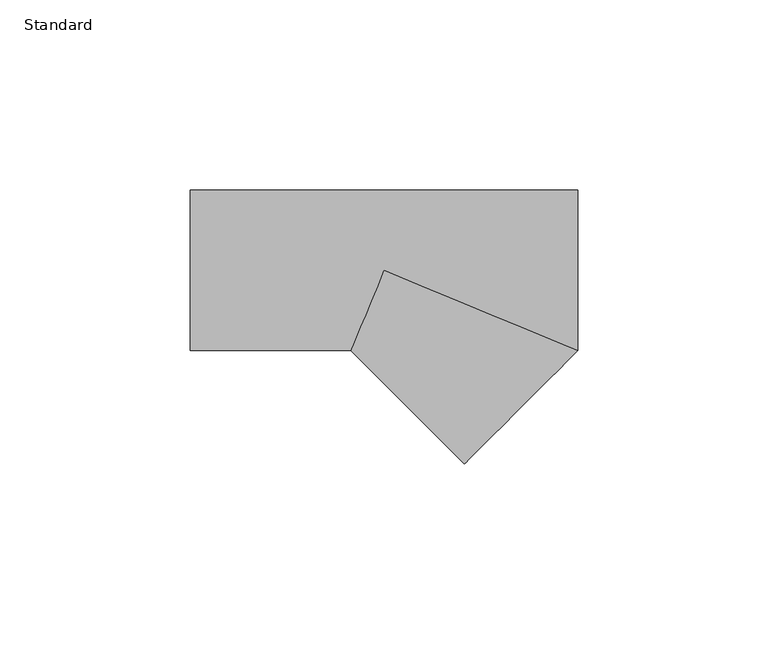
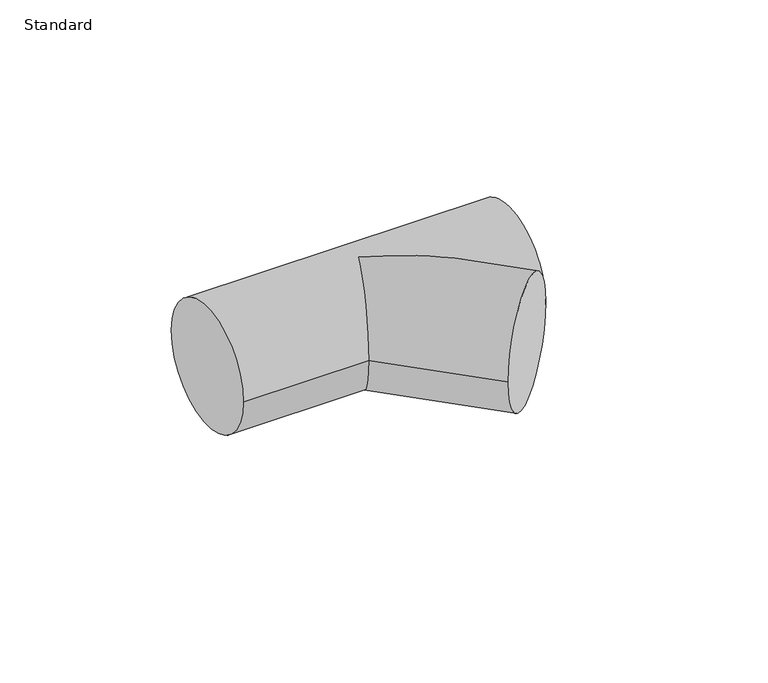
"""IFC4 building model written with IfcOpenShell, lengths in millimetres: pipe fitting geometry, Té - Générique : Standard."""

from ifc_helpers import new_model, si_unit, frame, origin, place, context, project, spatial, circle_curve, ellipse_curve, source, transform, mapped, element, save
from ifc_brep_helpers import plane_surface, cylinder_surface, advanced_brep


def standard_378eef83(model_context):
    return source(origin(), model_context, "Body", "AdvancedBrep", [
        advanced_brep(
        [(-50.943507, -21.1, 0.0), (-50.943507, 21.1, 0.0), (50.943507, -21.1, 0.0), (50.943507, 21.1, 0.0), (-8.7392884, -21.1, 0.0), (0.0, 0.0, 21.1), (0.0, 0.0, -21.1), (21.1050923, -50.9413976, 0.0)],
        [
            (0, 1, circle_curve(frame((-50.943507, 0.0, 0.0), z_axis=(-1.0, 0.0, 0.0), x_axis=(0.0, 1.0, 0.0)), 21.1)),
            (1, 0, circle_curve(frame((-50.943507, 0.0, 0.0), z_axis=(-1.0, 0.0, 0.0), x_axis=(0.0, 1.0, 0.0)), 21.1)),
            (2, 3, circle_curve(frame((50.943507, 0.0, 0.0), z_axis=(1.0, 0.0, 0.0), x_axis=(0.0, 1.0, 0.0)), 21.1)),
            (3, 2, circle_curve(frame((50.943507, 0.0, 0.0), z_axis=(1.0, 0.0, 0.0), x_axis=(0.0, 1.0, 0.0)), 21.1)),
            (0, 4),
            (4, 5, ellipse_curve(frame((0.0, 0.0, 0.0), z_axis=(-0.9238890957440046, 0.3826603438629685, 0.0), x_axis=(-0.38266034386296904, -0.9238890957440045, 0.0)), 22.838239, 21.1)),
            (5, 2, ellipse_curve(frame((0.0, 0.0, 0.0), z_axis=(0.38266034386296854, 0.9238890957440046, 0.0), x_axis=(-0.9238890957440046, 0.38266034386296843, 0.0)), 55.1402839, 21.1)),
            (3, 1),
            (2, 6, ellipse_curve(frame((0.0, 0.0, 0.0), z_axis=(0.38266034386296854, 0.9238890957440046, 0.0), x_axis=(-0.9238890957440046, 0.38266034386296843, 0.0)), 55.1402839, 21.1)),
            (6, 4, ellipse_curve(frame((0.0, 0.0, 0.0), z_axis=(-0.9238890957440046, 0.3826603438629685, 0.0), x_axis=(-0.38266034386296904, -0.9238890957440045, 0.0)), 22.838239, 21.1)),
            (7, 2, circle_curve(frame((36.0242997, -36.0206988, 0.0), z_axis=(0.7071421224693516, -0.7070714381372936, 0.0), x_axis=(0.7070714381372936, 0.7071421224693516, 0.0)), 21.1)),
            (2, 7, circle_curve(frame((36.0242997, -36.0206988, 0.0), z_axis=(0.7071421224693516, -0.7070714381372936, 0.0), x_axis=(0.7070714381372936, 0.7071421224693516, 0.0)), 21.1)),
            (4, 7),
        ],
        [
            plane_surface(frame((-50.943507, 0.0, 0.0), z_axis=(-1.0, 0.0, 0.0), x_axis=(0.0, 0.0, 1.0))),
            plane_surface(frame((50.943507, 0.0, 0.0), z_axis=(1.0, 0.0, 0.0), x_axis=(0.0, 0.0, 1.0))),
            cylinder_surface(frame((-50.943507, 0.0, 0.0), z_axis=(-1.0, 0.0, 0.0), x_axis=(0.0, 1.0, 0.0)), 21.1),
            plane_surface(frame((36.0242997, -36.0206988, 0.0), z_axis=(0.7071421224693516, -0.7070714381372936, 0.0), x_axis=(0.0, 0.0, 1.0))),
            cylinder_surface(frame((0.0, 0.0, 0.0), z_axis=(-0.7071421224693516, 0.7070714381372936, 0.0), x_axis=(0.7070714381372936, 0.7071421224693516, 0.0)), 21.1),
        ],
        [
            (0, [[1, 2]]),
            (1, [[3, 4]]),
            (2, [[-1, 5, 6, 7, -4, 8]]),
            (2, [[-2, -8, -3, 9, 10, -5]]),
            (3, [[11, 12]]),
            (4, [[-12, -7, -6, 13]]),
            (4, [[-11, -13, -10, -9]]),
        ],
    ),
    ])


if __name__ == "__main__":
    model = new_model("IFC4")
    model_context = context("Model", 3, world=origin())
    ifc_project = project(units=[si_unit("LENGTHUNIT", "METRE", prefix="MILLI")], contexts=[model_context])
    site = spatial("IfcSite", under=ifc_project)
    building = spatial("IfcBuilding", under=site)
    placement = place(None, origin())
    standard_shape = standard_378eef83(model_context)
    element("IfcPipeFitting", 1, ObjectType="Té - Générique : Standard", at=placement, inside=building, context=model_context, shape_type="MappedRepresentation", body=[
        mapped(standard_shape, transform((0.0, 0.0, 0.0), x_axis=(1.0, 0.0, 0.0), y_axis=(0.0, 1.0, 0.0), z_axis=(0.0, 0.0, 1.0))),
    ])
    save(model, "model.ifc")
